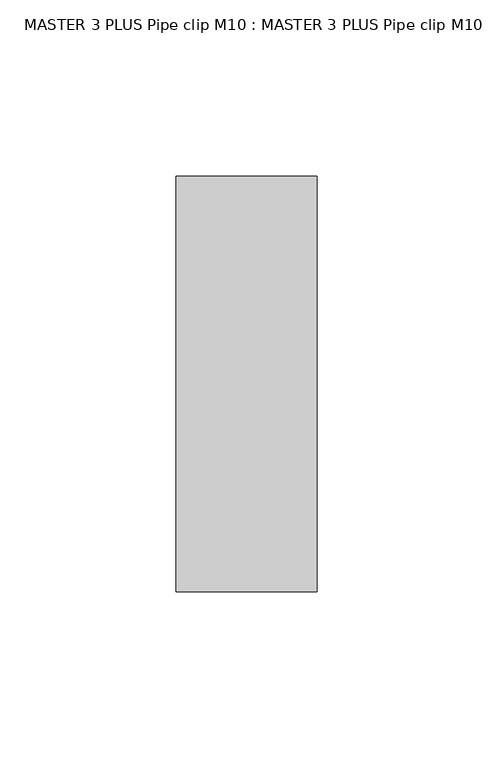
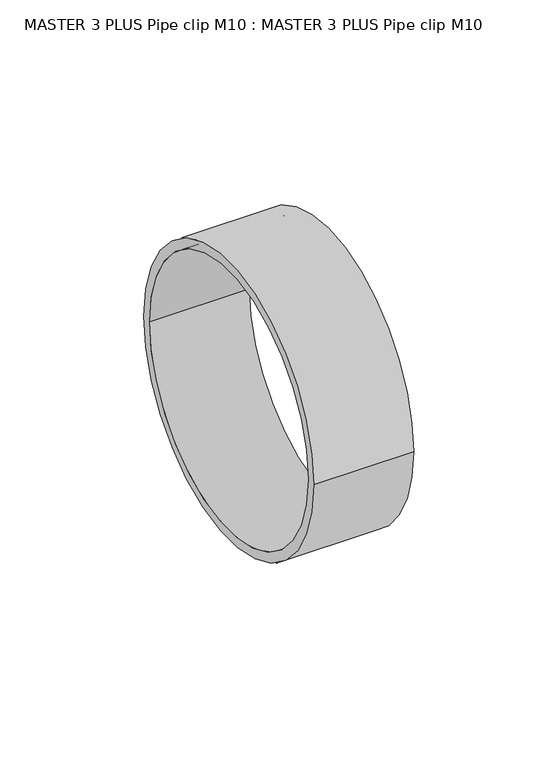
"""IFC4 building model written with IfcOpenShell, lengths in millimetres: valve geometry, MASTER 3 PLUS Pipe clip M10 : MASTER 3 PLUS Pipe clip M10."""

import ifcopenshell
import ifcopenshell.guid

model = None  # the IFC model being written
_history = None  # IfcOwnerHistory: only IFC2X3 demands one
_inside = {}  # id of a spatial element -> (the spatial element, [elements in it])
_under = {}  # id of a project, library or spatial element -> (it, [spatial elements below it])
_declared = {}  # id of a project -> (the project, [libraries it declares])
_typed = {}  # id of a type object -> (the type object, [elements of that type])
_made_of = {}  # id of a material, layer set ... -> (it, [elements and type objects made of it])


def new_model(schema):
    """Start an empty IFC model of exactly this schema.

    Asked for "IFC4X3", IfcOpenShell would pick the latest addendum, in which some entities
    have other attributes; the version numbers below select the first issue.
    IFC2X3 requires an IfcOwnerHistory on every rooted entity: one is made here for all.
    """
    global model, _history
    if schema == "IFC4X3":
        model = ifcopenshell.file(schema_version=(4, 3, 0, 0))
    else:
        model = ifcopenshell.file(schema=schema)
    _inside.clear()
    _under.clear()
    _declared.clear()
    _typed.clear()
    _made_of.clear()
    _history = None
    if model.schema == "IFC2X3":
        org = make("IfcOrganization", Name="unknown")
        user = make(
            "IfcPersonAndOrganization",
            ThePerson=make("IfcPerson", FamilyName="unknown"),
            TheOrganization=org,
        )
        app = make(
            "IfcApplication",
            ApplicationDeveloper=org,
            Version="unknown",
            ApplicationFullName="unknown",
            ApplicationIdentifier="unknown",
        )
        _history = make(
            "IfcOwnerHistory",
            OwningUser=user,
            OwningApplication=app,
            ChangeAction="ADDED",
            CreationDate=0,
        )
    return model


def make(cls, **values):
    """One entity of the class cls with the attributes given. An attribute that is None is left unset."""
    return model.create_entity(
        cls, **{name: value for name, value in values.items() if value is not None}
    )


def rooted(cls, **values):
    """An entity with a GlobalId (a new one), such as an element, a storey or a relation."""
    return make(cls, GlobalId=ifcopenshell.guid.new(), OwnerHistory=_history, **values)


def si_unit(unit_type, name, prefix=None):
    """IfcSIUnit, for example si_unit("LENGTHUNIT", "METRE", prefix="MILLI")."""
    return make("IfcSIUnit", UnitType=unit_type, Prefix=prefix, Name=name)


def assignment(units):
    """IfcUnitAssignment: the units of a project."""
    return None if units is None else make("IfcUnitAssignment", Units=units)


def point(xyz):
    """IfcCartesianPoint."""
    return None if xyz is None else make("IfcCartesianPoint", Coordinates=xyz)


def direction(xyz):
    """IfcDirection."""
    return None if xyz is None else make("IfcDirection", DirectionRatios=xyz)


def frame(location, z_axis=None, x_axis=None):
    """IfcAxis2Placement3D, a coordinate frame: its origin and axes. An axis left out is left unset."""
    return make(
        "IfcAxis2Placement3D",
        Location=point(location),
        Axis=direction(z_axis),
        RefDirection=direction(x_axis),
    )


def frame_2d(location, x_axis=None):
    """IfcAxis2Placement2D, a coordinate frame in the plane: its origin and x axis."""
    return make(
        "IfcAxis2Placement2D", Location=point(location), RefDirection=direction(x_axis)
    )


def origin():
    """The frame at (0, 0, 0) with its axes left unset."""
    return frame((0.0, 0.0, 0.0))


def origin_2d():
    """The frame at (0, 0) in the plane with its x axis left unset."""
    return frame_2d((0.0, 0.0))


def place(relative_to, where):
    """IfcLocalPlacement: puts the frame where relative to a parent placement (None: the world)."""
    return make(
        "IfcLocalPlacement", PlacementRelTo=relative_to, RelativePlacement=where
    )


def context(
    kind, dimensions, precision=None, world=None, true_north=None, identifier=None
):
    """IfcGeometricRepresentationContext, for example the 3D "Model" context."""
    return make(
        "IfcGeometricRepresentationContext",
        ContextIdentifier=identifier,
        ContextType=kind,
        CoordinateSpaceDimension=dimensions,
        Precision=precision,
        WorldCoordinateSystem=world,
        TrueNorth=true_north,
    )


def project(units=None, contexts=None):
    """IfcProject with its units and contexts."""
    return rooted(
        "IfcProject",
        Name="project",
        RepresentationContexts=contexts,
        UnitsInContext=assignment(units),
    )


def spatial(cls, under=None, at=None, **own):
    """A site, building, storey or space (cls), placed at a placement, below another one or the project."""
    s = rooted(cls, ObjectPlacement=at, **own)
    if under is not None:
        _under.setdefault(under.id(), (under, []))[1].append(s)
    return s


def circle_curve(where, radius):
    """IfcCircle in the frame where."""
    return make("IfcCircle", Position=where, Radius=radius)


def trimmed(basis, trim1, trim2, sense, master):
    """IfcTrimmedCurve: the piece of a basis curve between two trims."""
    return make(
        "IfcTrimmedCurve",
        BasisCurve=basis,
        Trim1=trim1,
        Trim2=trim2,
        SenseAgreement=sense,
        MasterRepresentation=master,
    )


def segment(curve, same_sense, transition):
    """IfcCompositeCurveSegment."""
    return make(
        "IfcCompositeCurveSegment",
        Transition=transition,
        SameSense=same_sense,
        ParentCurve=curve,
    )


def composite_curve(segments, self_intersect=None):
    """IfcCompositeCurve: segments joined end to end."""
    return make("IfcCompositeCurve", Segments=segments, SelfIntersect=self_intersect)


def outline(outer, holes=None, kind="AREA"):
    """IfcArbitraryClosedProfileDef: a profile drawn as a closed curve; with holes, ...WithVoids."""
    if holes is None:
        return make("IfcArbitraryClosedProfileDef", ProfileType=kind, OuterCurve=outer)
    return make(
        "IfcArbitraryProfileDefWithVoids",
        ProfileType=kind,
        OuterCurve=outer,
        InnerCurves=holes,
    )


def extrude(swept, where, along, depth):
    """IfcExtrudedAreaSolid: the profile swept, set in the frame where, extruded along a direction by depth."""
    return make(
        "IfcExtrudedAreaSolid",
        SweptArea=swept,
        Position=where,
        ExtrudedDirection=direction(along),
        Depth=depth,
    )


def shape(context_of_items, identifier, shape_type, items):
    """IfcShapeRepresentation: the items that make up one representation, for example the "Body"."""
    return make(
        "IfcShapeRepresentation",
        ContextOfItems=context_of_items,
        RepresentationIdentifier=identifier,
        RepresentationType=shape_type,
        Items=items,
    )


def source(mapping_origin, context_of_items, identifier, shape_type, items):
    """IfcRepresentationMap: a shape defined once, which mapped items show again and again."""
    return make(
        "IfcRepresentationMap",
        MappingOrigin=mapping_origin,
        MappedRepresentation=shape(context_of_items, identifier, shape_type, items),
    )


def transform(
    local_origin,
    x_axis=None,
    y_axis=None,
    z_axis=None,
    scale=None,
    scale2=None,
    scale3=None,
    uniform=True,
):
    """IfcCartesianTransformationOperator3D, or its non-uniform kind. x_axis, y_axis, z_axis: its Axis1, 2, 3."""
    if uniform:
        return make(
            "IfcCartesianTransformationOperator3D",
            Axis1=direction(x_axis),
            Axis2=direction(y_axis),
            LocalOrigin=point(local_origin),
            Scale=scale,
            Axis3=direction(z_axis),
        )
    return make(
        "IfcCartesianTransformationOperator3DnonUniform",
        Axis1=direction(x_axis),
        Axis2=direction(y_axis),
        LocalOrigin=point(local_origin),
        Scale=scale,
        Axis3=direction(z_axis),
        Scale2=scale2,
        Scale3=scale3,
    )


def mapped(mapping_source, mapping_target):
    """IfcMappedItem: shows the shape of a source again, moved by a transform."""
    return make(
        "IfcMappedItem", MappingSource=mapping_source, MappingTarget=mapping_target
    )


def made_of(thing, what):
    """Note that an element or type object is made of a material, layer set ...; save() writes the relation."""
    if what is not None:
        _made_of.setdefault(what.id(), (what, []))[1].append(thing)
    return thing


def element(
    cls,
    number,
    at=None,
    inside=None,
    cuts=None,
    type_object=None,
    material=None,
    context=None,
    identifier="Body",
    shape_type=None,
    held_by="IfcProductDefinitionShape",
    body=None,
    shapes=None,
    **own,
):
    """One element of the class cls, such as IfcWall. Its Tag is "e" and its number.

    at: its placement. inside: the storey or other place that contains it. cuts: it is an
    opening in that element (IfcRelVoidsElement). A single representation is given by context,
    identifier, shape_type and body (its items); several are given by shapes. held_by: the class
    of the entity that holds the representations. save() writes the other relations.
    """
    e = rooted(cls, Tag="e%d" % number, ObjectPlacement=at, **own)
    if body is not None:
        shapes = [shape(context, identifier, shape_type, body)]
    if shapes is not None:
        e.Representation = make(held_by, Representations=shapes)
    if inside is not None:
        _inside.setdefault(inside.id(), (inside, []))[1].append(e)
    if cuts is not None:
        rooted(
            "IfcRelVoidsElement", RelatingBuildingElement=cuts, RelatedOpeningElement=e
        )
    if type_object is not None:
        _typed.setdefault(type_object.id(), (type_object, []))[1].append(e)
    return made_of(e, material)


def aggregate(whole, parts):
    """IfcRelAggregates: a whole, such as a stair, and the parts it consists of."""
    return rooted("IfcRelAggregates", RelatingObject=whole, RelatedObjects=parts)


def save(model, path):
    """Write the relations noted so far, then the file.

    IfcRelAggregates (storeys below a building ...), IfcRelContainedInSpatialStructure (elements
    in a storey), IfcRelDefinesByType, IfcRelAssociatesMaterial and IfcRelDeclares: one each for
    every whole, place, type object, material and project.
    """
    for whole, parts in _under.values():
        aggregate(whole, parts)
    for where, things in _inside.values():
        rooted(
            "IfcRelContainedInSpatialStructure",
            RelatedElements=things,
            RelatingStructure=where,
        )
    for kind, things in _typed.values():
        rooted("IfcRelDefinesByType", RelatedObjects=things, RelatingType=kind)
    for what, things in _made_of.values():
        rooted("IfcRelAssociatesMaterial", RelatedObjects=things, RelatingMaterial=what)
    for by, libraries in _declared.values():
        rooted("IfcRelDeclares", RelatingContext=by, RelatedDefinitions=libraries)
    model.write(path)


def master_3_plus_pipe_clip_m10_master_3_plus_pipe_clip_m10_575d6b9e(model_context):
    return source(origin(), model_context, "Body", "SweptSolid", [
        extrude(outline(composite_curve([segment(trimmed(circle_curve(origin_2d(), 59.0), [point((-59.0, 0.0))], [point((59.0, 0.0))], False, "CARTESIAN"), True, "CONTINUOUS"), segment(trimmed(circle_curve(origin_2d(), 59.0), [point((59.0, 0.0))], [point((-59.0, 0.0))], False, "CARTESIAN"), True, "CONTINUOUS")], self_intersect=False), holes=[composite_curve([segment(trimmed(circle_curve(origin_2d(), 55.0), [point((-55.0, 0.0))], [point((55.0, 0.0))], True, "CARTESIAN"), True, "CONTINUOUS"), segment(trimmed(circle_curve(origin_2d(), 55.0), [point((55.0, 0.0))], [point((-55.0, 0.0))], True, "CARTESIAN"), True, "CONTINUOUS")], self_intersect=False)]), frame((0.0, 0.0, 0.0), z_axis=(1.0, 0.0, 0.0), x_axis=(0.0, 1.0, 0.0)), (0.0, 0.0, 1.0), 40.0),
    ])


if __name__ == "__main__":
    model = new_model("IFC4")
    model_context = context("Model", 3, world=origin())
    ifc_project = project(units=[si_unit("LENGTHUNIT", "METRE", prefix="MILLI")], contexts=[model_context])
    site = spatial("IfcSite", under=ifc_project)
    building = spatial("IfcBuilding", under=site)
    placement = place(None, origin())
    master_3_plus_pipe_clip_m10_master_3_plus_pipe_clip_m10_shape = master_3_plus_pipe_clip_m10_master_3_plus_pipe_clip_m10_575d6b9e(model_context)
    element("IfcValve", 1, ObjectType="MASTER 3 PLUS Pipe clip M10 : MASTER 3 PLUS Pipe clip M10", at=placement, inside=building, context=model_context, shape_type="MappedRepresentation", body=[
        mapped(master_3_plus_pipe_clip_m10_master_3_plus_pipe_clip_m10_shape, transform((0.0, 0.0, 0.0), x_axis=(1.0, 0.0, 0.0), y_axis=(0.0, 1.0, 0.0), z_axis=(0.0, 0.0, 1.0))),
    ])
    save(model, "model.ifc")
